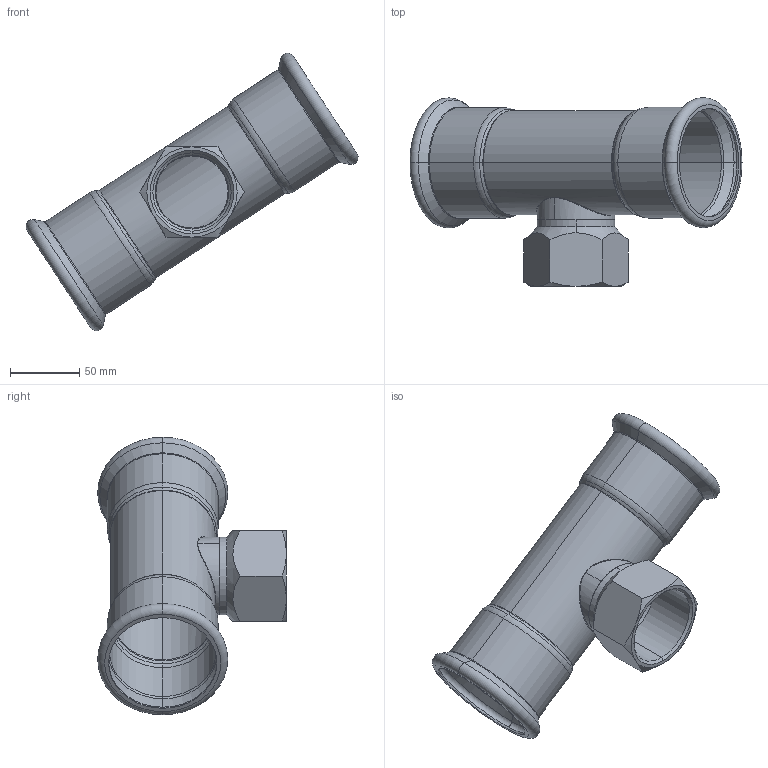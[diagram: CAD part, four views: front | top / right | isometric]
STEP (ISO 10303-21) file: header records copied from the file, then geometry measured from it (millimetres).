
FILE_DESCRIPTION (( 'STEP AP203' ), '1' );
FILE_NAME ('GDA5256.STEP', '2019-01-14T01:28:21', ( '' ), ( '' ), 'SwSTEP 2.0', 'SolidWorks 2015', '' );
FILE_SCHEMA (( 'CONFIG_CONTROL_DESIGN' ));
Length unit declared in the file: millimetre
Products named in the file (3): GDA5256; ITC-I-03-54℅2; T(R)-¢ñ-76.1¡Á54''
Assembly tree (2 placements, depth 2):
  GDA5256
    ITC-I-03-54℅2
    T(R)-¢ñ-76.1¡Á54''
Bounding box: 239.09 x 135.84 x 199.85 mm (x, y, z)
Volume: 136437.7 mm3; surface area: 138605.7 mm2
Topology: 2 solids, 2 shells, 103 faces, 218 edges, 122 vertices
Faces by surface type: torus 32, cone 28, cylinder 26, plane 13, bspline 4
Entity records: 4549 total; most frequent: CARTESIAN_POINT 2016, DIRECTION 526, ORIENTED_EDGE 436, AXIS2_PLACEMENT_3D 236, EDGE_CURVE 218, CIRCLE 132, VERTEX_POINT 122, EDGE_LOOP 112
